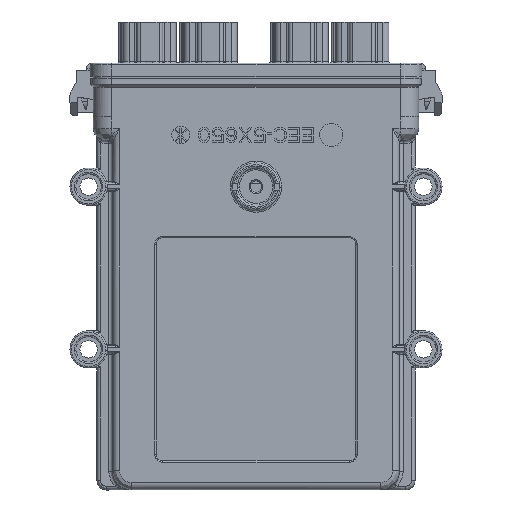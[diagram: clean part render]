
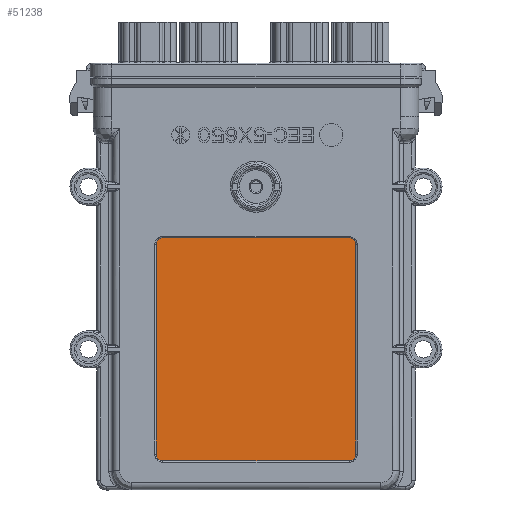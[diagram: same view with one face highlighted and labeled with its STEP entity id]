
A CAD part, front view. The second image highlights one B-rep face of the part: STEP entity #51238.
In plain terms, the highlighted planar face has unit normal (0, -1, 0).
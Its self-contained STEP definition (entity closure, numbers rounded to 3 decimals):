
#615 = DIRECTION ( 'NONE',  ( 0., -1., 0. ) ) ;
#2747 = VECTOR ( 'NONE', #13888, 1000. ) ;
#3987 = ORIENTED_EDGE ( 'NONE', *, *, #67220, .T. ) ;
#4059 = ORIENTED_EDGE ( 'NONE', *, *, #25934, .T. ) ;
#5979 = VERTEX_POINT ( 'NONE', #32103 ) ;
#9841 = AXIS2_PLACEMENT_3D ( 'NONE', #11609, #84775, #22082 ) ;
#11609 = CARTESIAN_POINT ( 'NONE',  ( 40., -24.45, -165. ) ) ;
#11777 = AXIS2_PLACEMENT_3D ( 'NONE', #63364, #615, #73823 ) ;
#11930 = ORIENTED_EDGE ( 'NONE', *, *, #29163, .T. ) ;
#13456 = DIRECTION ( 'NONE',  ( 0., 0., -1. ) ) ;
#13888 = DIRECTION ( 'NONE',  ( 0., 0., -1. ) ) ;
#14305 = CARTESIAN_POINT ( 'NONE',  ( 40., -24.45, -72. ) ) ;
#15502 = VECTOR ( 'NONE', #29058, 1000. ) ;
#16663 = VERTEX_POINT ( 'NONE', #72068 ) ;
#18938 = VERTEX_POINT ( 'NONE', #99887 ) ;
#22082 = DIRECTION ( 'NONE',  ( 0., 0., -1. ) ) ;
#22616 = CIRCLE ( 'NONE', #11777, 3. ) ;
#23704 = VERTEX_POINT ( 'NONE', #117766 ) ;
#25312 = CARTESIAN_POINT ( 'NONE',  ( -40., -24.45, -165. ) ) ;
#25934 = EDGE_CURVE ( 'NONE', #23704, #80410, #79793, .T. ) ;
#26511 = EDGE_CURVE ( 'NONE', #80410, #16663, #82911, .T. ) ;
#27919 = DIRECTION ( 'NONE',  ( -1., 0., 0. ) ) ;
#29058 = DIRECTION ( 'NONE',  ( 0., 0., 1. ) ) ;
#29163 = EDGE_CURVE ( 'NONE', #129042, #23704, #48121, .T. ) ;
#32103 = CARTESIAN_POINT ( 'NONE',  ( 40., -24.45, -168. ) ) ;
#32206 = VERTEX_POINT ( 'NONE', #127053 ) ;
#35863 = DIRECTION ( 'NONE',  ( 0., 0., -1. ) ) ;
#36804 = AXIS2_PLACEMENT_3D ( 'NONE', #107145, #76099, #13456 ) ;
#39750 = CARTESIAN_POINT ( 'NONE',  ( 43., -24.45, -165. ) ) ;
#41138 = ORIENTED_EDGE ( 'NONE', *, *, #129674, .T. ) ;
#45491 = CARTESIAN_POINT ( 'NONE',  ( -43., -24.45, -75. ) ) ;
#47809 = VERTEX_POINT ( 'NONE', #39750 ) ;
#48121 = LINE ( 'NONE', #59077, #131474 ) ;
#50121 = FACE_OUTER_BOUND ( 'NONE', #95356, .T. ) ;
#51238 = ADVANCED_FACE ( 'NONE', ( #50121 ), #55107, .T. ) ;
#52100 = LINE ( 'NONE', #85349, #104388 ) ;
#52958 = DIRECTION ( 'NONE',  ( 0., -1., 0. ) ) ;
#53833 = ORIENTED_EDGE ( 'NONE', *, *, #128855, .T. ) ;
#55107 = PLANE ( 'NONE',  #36804 ) ;
#56286 = ORIENTED_EDGE ( 'NONE', *, *, #26511, .T. ) ;
#59077 = CARTESIAN_POINT ( 'NONE',  ( 40., -24.45, -72. ) ) ;
#60215 = CARTESIAN_POINT ( 'NONE',  ( 43., -24.45, -165. ) ) ;
#63364 = CARTESIAN_POINT ( 'NONE',  ( 40., -24.45, -75. ) ) ;
#65955 = AXIS2_PLACEMENT_3D ( 'NONE', #115519, #52958, #126091 ) ;
#67220 = EDGE_CURVE ( 'NONE', #18938, #129042, #22616, .T. ) ;
#71171 = LINE ( 'NONE', #60215, #15502 ) ;
#71366 = ORIENTED_EDGE ( 'NONE', *, *, #82179, .T. ) ;
#72068 = CARTESIAN_POINT ( 'NONE',  ( -43., -24.45, -165. ) ) ;
#73823 = DIRECTION ( 'NONE',  ( 0., 0., -1. ) ) ;
#74834 = AXIS2_PLACEMENT_3D ( 'NONE', #25312, #98427, #35863 ) ;
#76099 = DIRECTION ( 'NONE',  ( 0., -1., 0. ) ) ;
#79793 = CIRCLE ( 'NONE', #65955, 3. ) ;
#80410 = VERTEX_POINT ( 'NONE', #126638 ) ;
#81983 = CIRCLE ( 'NONE', #9841, 3. ) ;
#82179 = EDGE_CURVE ( 'NONE', #47809, #18938, #71171, .T. ) ;
#82911 = LINE ( 'NONE', #45491, #2747 ) ;
#84775 = DIRECTION ( 'NONE',  ( 0., -1., 0. ) ) ;
#85349 = CARTESIAN_POINT ( 'NONE',  ( -40., -24.45, -168. ) ) ;
#95356 = EDGE_LOOP ( 'NONE', ( #4059, #56286, #41138, #117038, #53833, #71366, #3987, #11930 ) ) ;
#95808 = DIRECTION ( 'NONE',  ( 1., 0., 0. ) ) ;
#98427 = DIRECTION ( 'NONE',  ( 0., -1., 0. ) ) ;
#99887 = CARTESIAN_POINT ( 'NONE',  ( 43., -24.45, -75. ) ) ;
#104388 = VECTOR ( 'NONE', #95808, 1000. ) ;
#107145 = CARTESIAN_POINT ( 'NONE',  ( 0., -24.45, 0. ) ) ;
#115519 = CARTESIAN_POINT ( 'NONE',  ( -40., -24.45, -75. ) ) ;
#117038 = ORIENTED_EDGE ( 'NONE', *, *, #123228, .T. ) ;
#117766 = CARTESIAN_POINT ( 'NONE',  ( -40., -24.45, -72. ) ) ;
#119626 = CIRCLE ( 'NONE', #74834, 3. ) ;
#123228 = EDGE_CURVE ( 'NONE', #32206, #5979, #52100, .T. ) ;
#126091 = DIRECTION ( 'NONE',  ( 0., 0., -1. ) ) ;
#126638 = CARTESIAN_POINT ( 'NONE',  ( -43., -24.45, -75. ) ) ;
#127053 = CARTESIAN_POINT ( 'NONE',  ( -40., -24.45, -168. ) ) ;
#128855 = EDGE_CURVE ( 'NONE', #5979, #47809, #81983, .T. ) ;
#129042 = VERTEX_POINT ( 'NONE', #14305 ) ;
#129674 = EDGE_CURVE ( 'NONE', #16663, #32206, #119626, .T. ) ;
#131474 = VECTOR ( 'NONE', #27919, 1000. ) ;
